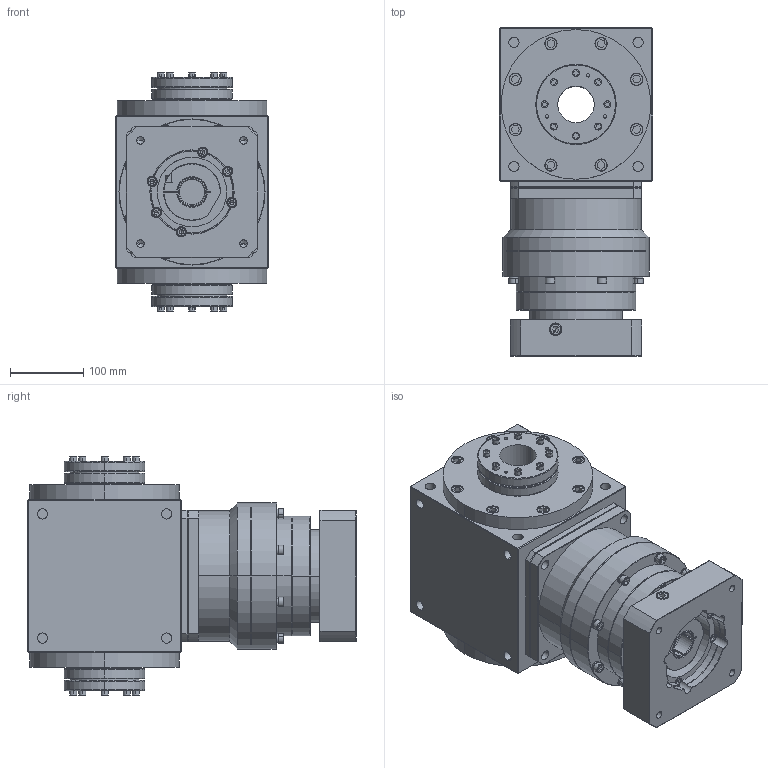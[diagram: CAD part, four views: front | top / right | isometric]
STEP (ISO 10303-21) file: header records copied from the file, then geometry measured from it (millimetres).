
FILE_DESCRIPTION (( 'STEP AP203' ), '1' );
FILE_NAME ('AT210-FC-L2 35-114.3-200-M12.STEP', '2024-12-27T09:26:17', ( '' ), ( '' ), 'SwSTEP 2.0', 'SolidWorks 2021', '' );
FILE_SCHEMA (( 'CONFIG_CONTROL_DESIGN' ));
Length unit declared in the file: millimetre
Products named in the file (3): AT210-FC; AT210-FC-L2 35-114.3-200-M12; KS180L2-114.3-35-83-M12-200俋倛芞
Assembly tree (2 placements, depth 2):
  AT210-FC-L2 35-114.3-200-M12
    AT210-FC
    KS180L2-114.3-35-83-M12-200俋倛芞
Bounding box: 210 x 449.5 x 326 mm (x, y, z)
Volume: 16529268.4 mm3; surface area: 922188.9 mm2
Topology: 45 solids, 45 shells, 1605 faces, 3798 edges, 2378 vertices
Faces by surface type: plane 811, cylinder 560, cone 176, bspline 58
Entity records: 46981 total; most frequent: CARTESIAN_POINT 9800, DIRECTION 7920, ORIENTED_EDGE 7476, EDGE_CURVE 3738, AXIS2_PLACEMENT_3D 2970, VERTEX_POINT 2378, VECTOR 1980, LINE 1980
